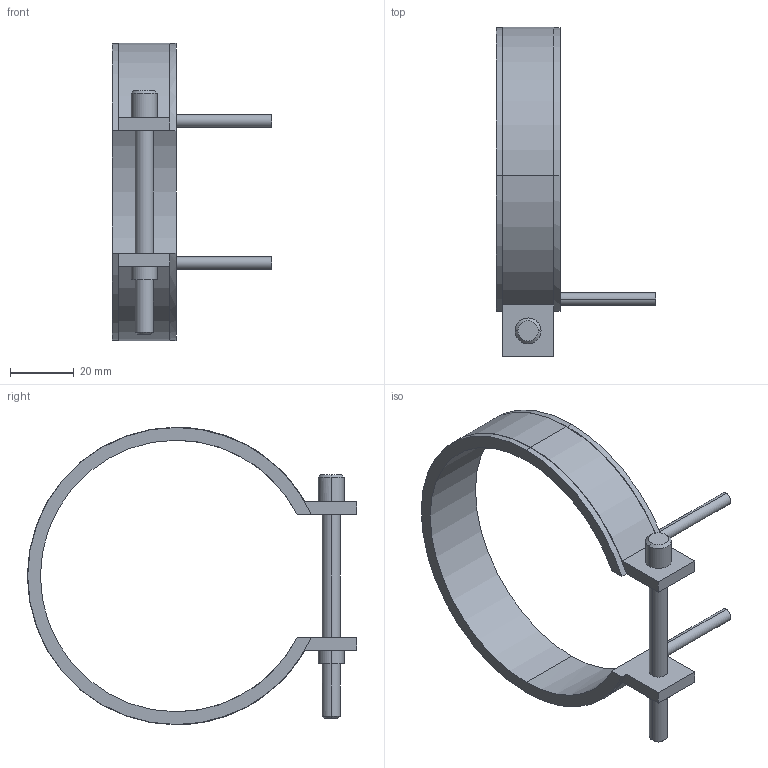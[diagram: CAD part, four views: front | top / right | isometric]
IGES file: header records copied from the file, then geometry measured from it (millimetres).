
Start section: START RECORD GO HERE.
Global section: file name: 14085020.igs; native system: DASSAULT SYSTEMES CATIA V5 R20 - www.3ds.com; preprocessor: CATIA Version 5 Release 20 ; author: Utente; organization: NB04-ASUS; date: 20210406.182540; units: millimetre
Bounding box: 50 x 103.1 x 93.2 mm (x, y, z)
Surface area: 14938.4 mm2 (no closed solid volume)
Topology: 0 solids, 0 shells, 45 faces, 232 edges, 232 vertices
Faces by surface type: revolution 28, plane 17
